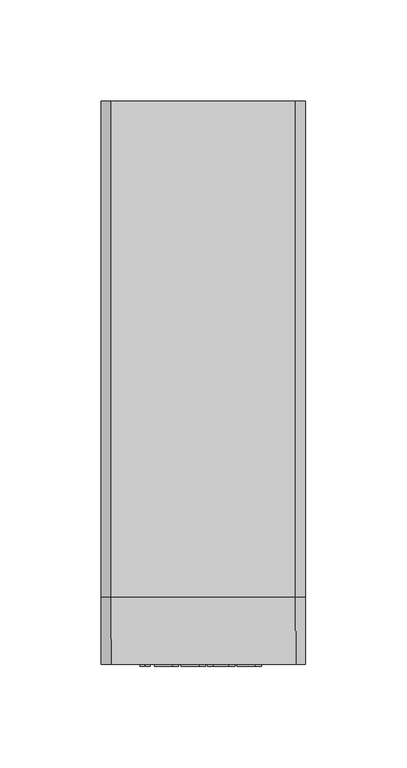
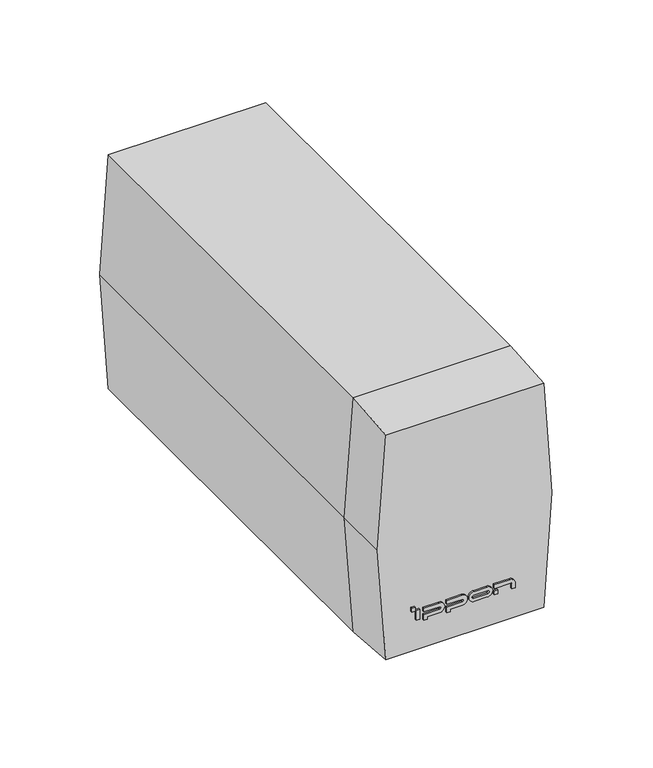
"""IFC4 building model written with IfcOpenShell, lengths in millimetres: proxy geometry, IPPON_ИБП_Innova Back Basic_650_850_1050ВА : Back Basic S Euro 850 ВА."""

from ifc_helpers import new_model, si_unit, point, frame, frame_2d, origin, place, context, project, spatial, polyline, circle_curve, trimmed, segment, composite_curve, outline, extrude, faceted_brep, source, transform, mapped, element, save


def electrical_equipment_16f8b6a5(model_context):
    return source(origin(), model_context, "Body", "SolidModel", [
        extrude(outline(polyline([(-29.1718133, -1.0), (-31.1718133, -1.0), (-31.1718133, 0.0), (-29.1718133, 0.0), (-29.1718133, -1.0)])), frame((0.0, 0.0, 27.4695835), z_axis=(0.0, 0.0, 1.0), x_axis=(1.0, 0.0, 0.0)), (0.0, 0.0, 1.0), 2.3),
        extrude(outline(polyline([(18.6035474, -1.0), (16.6035474, -1.0), (16.6035474, 0.0), (18.6035474, 0.0), (18.6035474, -1.0)])), frame((0.0, 0.0, 21.4695835), z_axis=(0.0, 0.0, 1.0), x_axis=(1.0, 0.0, 0.0)), (0.0, 0.0, 1.0), 2.2268231),
        extrude(outline(polyline([(-26.438565, -1.0), (-28.4833324, -1.0), (-28.4833324, 0.0), (-26.438565, 0.0), (-26.438565, -1.0)])), frame((0.0, 0.0, 21.4695835), z_axis=(0.0, 0.0, 1.0), x_axis=(1.0, 0.0, 0.0)), (0.0, 0.0, 1.0), 6.0),
        extrude(outline(composite_curve([segment(polyline([(25.2071435, -24.2241109), (25.2071435, -14.9923536)]), True, "CONTINUOUS"), segment(trimmed(circle_curve(frame_2d((24.3506642, -14.9923536)), 0.8564793), [point((25.2071435, -14.9923536))], [point((23.4941849, -14.9923536))], True, "CARTESIAN"), True, "CONTINUOUS"), segment(polyline([(23.4941849, -14.9923536), (23.4941849, -24.2241109), (20.0036803, -24.2241109), (20.0036803, -22.2241109), (21.4695835, -22.2241109), (21.4695835, -15.1486036)]), True, "CONTINUOUS"), segment(trimmed(circle_curve(frame_2d((24.4695835, -15.1486036)), 3.0), [point((21.4695835, -15.1486036))], [point((27.4695835, -15.1486036))], False, "CARTESIAN"), True, "CONTINUOUS"), segment(polyline([(27.4695835, -15.1486036), (27.4695835, -24.2241109), (25.2071435, -24.2241109)]), True, "CONTINUOUS")], self_intersect=False)), frame((0.0, -1.0, 0.0), z_axis=(0.0, 1.0, 0.0), x_axis=(0.0, 0.0, 1.0)), (0.0, 0.0, 1.0), 1.0),
        extrude(outline(composite_curve([segment(polyline([(25.2071435, -11.0171091), (25.2071435, -1.7853518)]), True, "CONTINUOUS"), segment(trimmed(circle_curve(frame_2d((24.3506642, -1.7853518)), 0.8564793), [point((25.2071435, -1.7853518))], [point((23.4941849, -1.7853518))], True, "CARTESIAN"), True, "CONTINUOUS"), segment(polyline([(23.4941849, -1.7853518), (23.4941849, -11.0171091), (20.0036803, -11.0171091), (20.0036803, -9.0171091), (21.4695835, -9.0171091), (21.4695835, -1.9416018)]), True, "CONTINUOUS"), segment(trimmed(circle_curve(frame_2d((24.4695835, -1.9416018)), 3.0), [point((21.4695835, -1.9416018))], [point((27.4695835, -1.9416018))], False, "CARTESIAN"), True, "CONTINUOUS"), segment(polyline([(27.4695835, -1.9416018), (27.4695835, -11.0171091), (25.2071435, -11.0171091)]), True, "CONTINUOUS")], self_intersect=False)), frame((0.0, -1.0, 0.0), z_axis=(0.0, 1.0, 0.0), x_axis=(0.0, 0.0, 1.0)), (0.0, 0.0, 1.0), 1.0),
        extrude(outline(composite_curve([segment(trimmed(circle_curve(frame_2d((24.4695835, 12.558657)), 3.0), [point((21.4695835, 12.558657))], [point((27.4695835, 12.558657))], False, "CARTESIAN"), True, "CONTINUOUS"), segment(polyline([(27.4695835, 12.558657), (27.4695835, 4.958657)]), True, "CONTINUOUS"), segment(trimmed(circle_curve(frame_2d((24.4695835, 4.958657)), 3.0), [point((27.4695835, 4.958657))], [point((21.4695835, 4.958657))], False, "CARTESIAN"), True, "CONTINUOUS"), segment(polyline([(21.4695835, 4.958657), (21.4695835, 12.558657)]), True, "CONTINUOUS")], self_intersect=False), holes=[composite_curve([segment(polyline([(23.4941849, 12.714907), (23.4941849, 4.802407)]), True, "CONTINUOUS"), segment(trimmed(circle_curve(frame_2d((24.3506642, 4.802407)), 0.8564793), [point((23.4941849, 4.802407))], [point((25.2071435, 4.802407))], True, "CARTESIAN"), True, "CONTINUOUS"), segment(polyline([(25.2071435, 4.802407), (25.2071435, 12.714907)]), True, "CONTINUOUS"), segment(trimmed(circle_curve(frame_2d((24.3506642, 12.714907)), 0.8564793), [point((25.2071435, 12.714907))], [point((23.4941849, 12.714907))], True, "CARTESIAN"), True, "CONTINUOUS")], self_intersect=False)]), frame((0.0, -1.0, 0.0), z_axis=(0.0, 1.0, 0.0), x_axis=(0.0, 0.0, 1.0)), (0.0, 0.0, 1.0), 1.0),
        extrude(outline(composite_curve([segment(polyline([(25.2071435, 16.6035474), (25.2071435, 25.8353046)]), True, "CONTINUOUS"), segment(trimmed(circle_curve(frame_2d((24.3506642, 25.8353046)), 0.8564793), [point((25.2071435, 25.8353046))], [point((24.3506642, 26.6917839))], True, "CARTESIAN"), True, "CONTINUOUS"), segment(polyline([(24.3506642, 26.6917839), (21.4695835, 26.6917839), (21.4695835, 28.6317921), (25.0, 28.6317921)]), True, "CONTINUOUS"), segment(trimmed(circle_curve(frame_2d((24.4695835, 25.6790546)), 3.0), [point((25.0, 28.6317921))], [point((27.4695835, 25.6790546))], False, "CARTESIAN"), True, "CONTINUOUS"), segment(polyline([(27.4695835, 25.6790546), (27.4695835, 16.6035474), (25.2071435, 16.6035474)]), True, "CONTINUOUS")], self_intersect=False)), frame((0.0, -1.0, 0.0), z_axis=(0.0, 1.0, 0.0), x_axis=(0.0, 0.0, 1.0)), (0.0, 0.0, 1.0), 1.0),
        faceted_brep([(45.7097902, 0.0, 140.0), (-45.7097902, 0.0, 140.0), (-50.5, 0.0, 71.5), (-45.7097902, 0.0, 3.0), (45.7097902, 0.0, 3.0), (50.5, 0.0, 71.5), (-45.5, 33.0, 143.0), (45.5, 33.0, 143.0), (50.5, 33.0, 71.5), (45.5, 33.0, 0.0), (-45.5, 33.0, 0.0), (-50.5, 33.0, 71.5)], [[[0, 1, 2, 3, 4, 5]], [[6, 7, 8, 9, 10, 11]], [[7, 6, 1, 0]], [[10, 9, 4, 3]], [[5, 8, 7, 0]], [[8, 5, 4, 9]], [[11, 2, 1, 6]], [[2, 11, 10, 3]]]),
        extrude(outline(polyline([(143.0, 45.5), (143.0, -45.5), (71.5, -50.5), (0.0, -45.5), (0.0, 45.5), (71.5, 50.5), (143.0, 45.5)])), frame((0.0, 33.0, 0.0), z_axis=(0.0, 1.0, 0.0), x_axis=(0.0, 0.0, 1.0)), (0.0, 0.0, 1.0), 245.0),
    ])


if __name__ == "__main__":
    model = new_model("IFC4")
    model_context = context("Model", 3, world=origin())
    ifc_project = project(units=[si_unit("LENGTHUNIT", "METRE", prefix="MILLI")], contexts=[model_context])
    site = spatial("IfcSite", under=ifc_project)
    building = spatial("IfcBuilding", under=site)
    placement = place(None, origin())
    electrical_equipment_shape = electrical_equipment_16f8b6a5(model_context)
    element("IfcBuildingElementProxy", 1, Name="IPPON_ИБП_Innova Back Basic_650_850_1050ВА : Back Basic S Euro 850 ВА", ObjectType="IPPON_ИБП_Innova Back Basic_650_850_1050ВА : Back Basic S Euro 850 ВА", at=placement, inside=building, context=model_context, shape_type="MappedRepresentation", body=[
        mapped(electrical_equipment_shape, transform((0.0, 0.0, 0.0), x_axis=(1.0, 0.0, 0.0), y_axis=(0.0, 1.0, 0.0), z_axis=(0.0, 0.0, 1.0))),
    ])
    save(model, "model.ifc")
